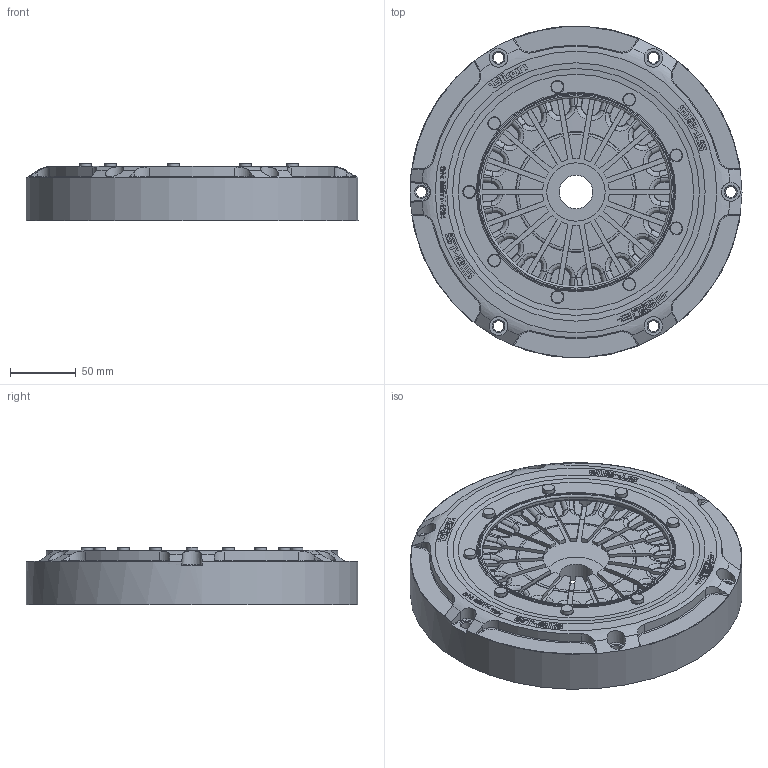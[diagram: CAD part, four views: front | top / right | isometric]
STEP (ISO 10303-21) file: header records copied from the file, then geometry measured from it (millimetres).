
FILE_DESCRIPTION(/* description */ ('Unknown'),/* implementation_level */ '2;1');
FILE_NAME(/* name */ '68-401',/* time_stamp */ '2024-10-04T06:52:46-07:00',/* author */ ('Unknown'),/* organization */ ('Unknown'),/* preprocessor_version */ 'ST-DEVELOPER v18.104',/* originating_system */ 'Solid Edge',/* authorisation */ 'Unknown');
FILE_SCHEMA (('AUTOMOTIVE_DESIGN {1 0 10303 214 3 1 1}'));
Length unit declared in the file: millimetre
Products named in the file (1): 68-401
Bounding box: 252.98 x 252.88 x 43.48 mm (x, y, z)
Volume: 1374719.7 mm3; surface area: 292904.2 mm2
Topology: 12 solids, 12 shells, 1596 faces, 4267 edges, 2764 vertices
Faces by surface type: bspline 489, cylinder 466, plane 349, torus 230, cone 62
Full cylindrical faces by diameter (mm): 5.309 x9, 8.204 x6, 8.89 x18, 14.3 x5, 25.4 x1, 44.45 x1, 143.51 x1, 149.86 x1, 167.607 x1, 172.974 x1, 178.054 x1, 214.63 x1, 215.9 x1, 219.025 x1, 253 x1
Entity records: 75976 total; most frequent: CARTESIAN_POINT 39500, ORIENTED_EDGE 8232, DIRECTION 4446, EDGE_CURVE 4116, VERTEX_POINT 2704, B_SPLINE_CURVE_WITH_KNOTS 2623, AXIS2_PLACEMENT_3D 1845, FACE_BOUND 1790
